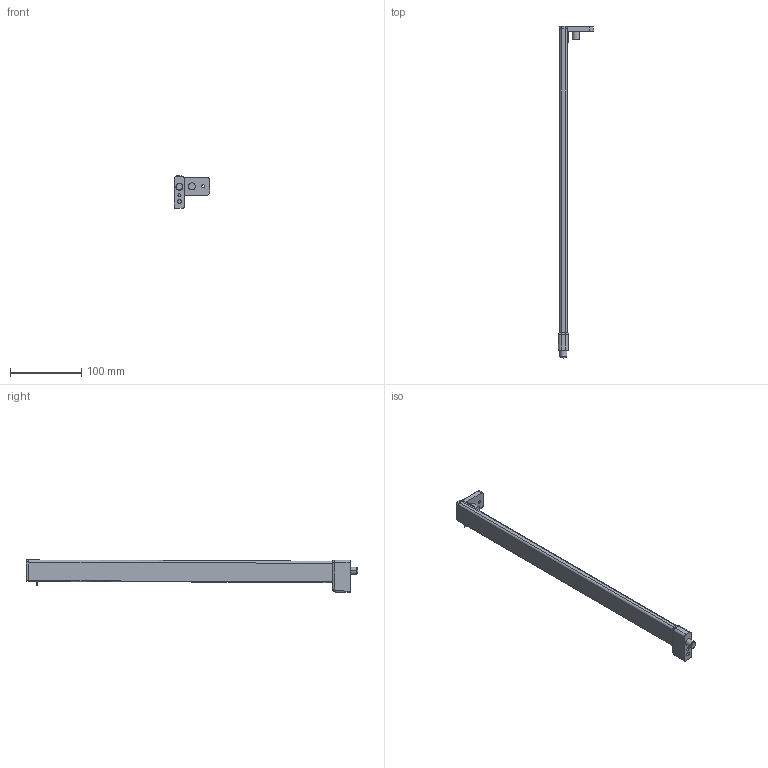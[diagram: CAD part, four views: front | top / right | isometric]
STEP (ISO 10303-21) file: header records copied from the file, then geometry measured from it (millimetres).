
FILE_DESCRIPTION (( 'STEP AP214' ), '1' );
FILE_NAME ('_2S_REL_7606_NL450_LI.step', '2010-07-01T14:41:46', ( 'grass' ), ( '' ), 'SwSTEP 2.0', 'SolidWorks 2009', '' );
FILE_SCHEMA (( 'AUTOMOTIVE_DESIGN' ));
Length unit declared in the file: millimetre
Products named in the file (1): _2S_REL_7606_NL450_LI
Bounding box: 49.25 x 465.5 x 45.4 mm (x, y, z)
Volume: 154057.9 mm3; surface area: 41446.1 mm2
Topology: 2 solids, 2 shells, 120 faces, 292 edges, 178 vertices
Faces by surface type: cylinder 58, plane 40, bspline 10, torus 6, cone 4, sphere 2
Entity records: 4528 total; most frequent: CARTESIAN_POINT 1803, ORIENTED_EDGE 580, DIRECTION 546, EDGE_CURVE 290, AXIS2_PLACEMENT_3D 203, VERTEX_POINT 178, LINE 140, VECTOR 140
